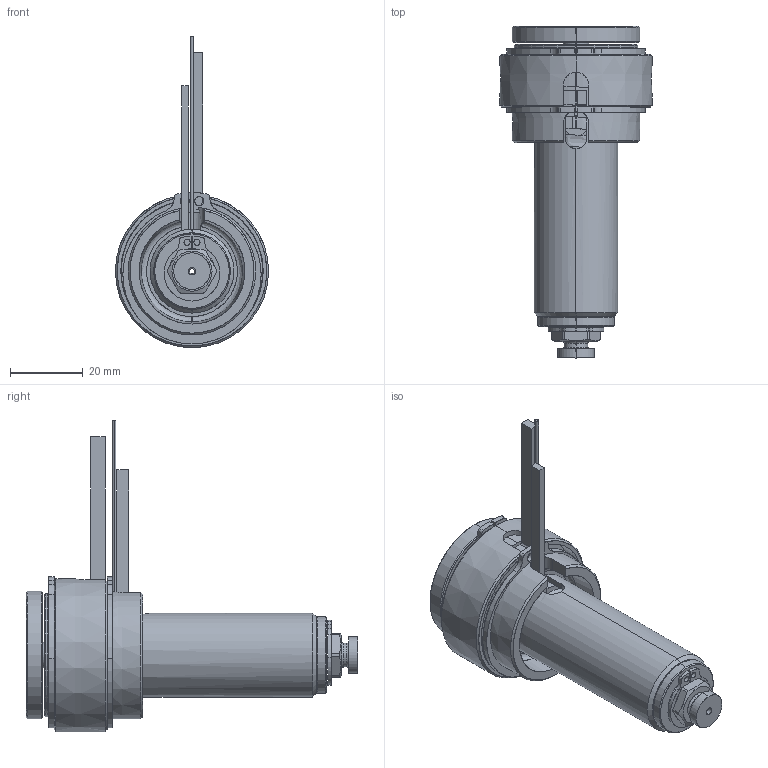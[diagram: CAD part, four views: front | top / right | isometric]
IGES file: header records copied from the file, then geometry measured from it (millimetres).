
Start section: SolidWorks IGES file using analytic representation for surfaces
Global section: file name: C:\Users\luca.EMPAD\Desktop\TEM\UGBE3501-S-A-3 [Ød-1.5 P-0 ØC-7.0].IGS; native system: SolidWorks 2012; preprocessor: SolidWorks 2012; author: luca; date: 120330.140330; units: millimetre
Bounding box: 42 x 91 x 85.4 mm (x, y, z)
Surface area: 27607.5 mm2 (no closed solid volume)
Topology: 0 solids, 0 shells, 191 faces, 3502 edges, 3502 vertices
Faces by surface type: revolution 122, bspline 69
